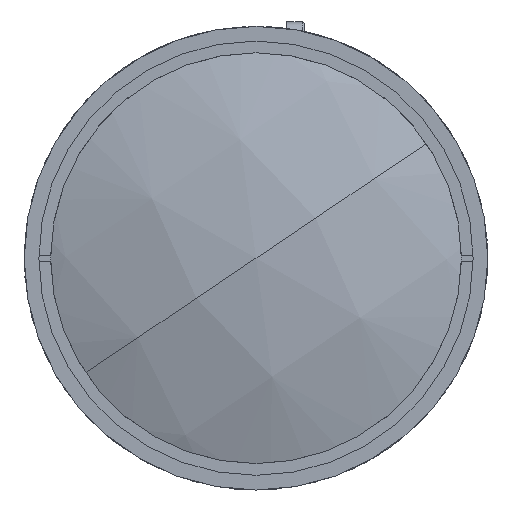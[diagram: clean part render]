
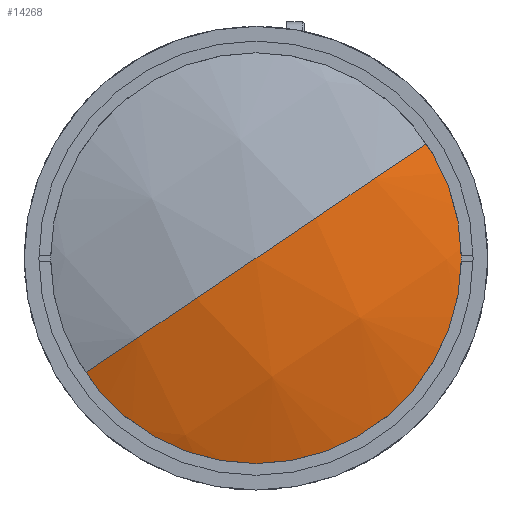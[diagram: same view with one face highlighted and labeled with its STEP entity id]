
A CAD part, left-side view. The second image highlights one B-rep face of the part: STEP entity #14268.
In plain terms, the highlighted spherical face has radius 102.234 mm.
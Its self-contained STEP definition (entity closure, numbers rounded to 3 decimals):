
#251 = EDGE_CURVE ( 'NONE', #10045, #10568, #9937, .T. ) ;
#854 = ORIENTED_EDGE ( 'NONE', *, *, #251, .T. ) ;
#1367 = DIRECTION ( 'NONE',  ( 0., -0.558, -0.83 ) ) ;
#1995 = EDGE_LOOP ( 'NONE', ( #19744, #9385, #854 ) ) ;
#3044 = CARTESIAN_POINT ( 'NONE',  ( 103.234, 0., 0. ) ) ;
#3607 = DIRECTION ( 'NONE',  ( 0., -0.83, 0.558 ) ) ;
#4278 = EDGE_CURVE ( 'NONE', #10585, #10045, #19902, .T. ) ;
#4783 = DIRECTION ( 'NONE',  ( 0., -0.83, 0.558 ) ) ;
#5620 = CARTESIAN_POINT ( 'NONE',  ( 7.548, -29.871, 20.093 ) ) ;
#6089 = EDGE_CURVE ( 'NONE', #10585, #10568, #10504, .T. ) ;
#8197 = AXIS2_PLACEMENT_3D ( 'NONE', #3044, #15093, #4783 ) ;
#9385 = ORIENTED_EDGE ( 'NONE', *, *, #4278, .T. ) ;
#9607 = DIRECTION ( 'NONE',  ( -1., 0., 0. ) ) ;
#9937 = CIRCLE ( 'NONE', #15248, 102.234 ) ;
#10045 = VERTEX_POINT ( 'NONE', #5620 ) ;
#10476 = CARTESIAN_POINT ( 'NONE',  ( 103.234, 0., 0. ) ) ;
#10504 = CIRCLE ( 'NONE', #8197, 102.234 ) ;
#10568 = VERTEX_POINT ( 'NONE', #11144 ) ;
#10585 = VERTEX_POINT ( 'NONE', #16471 ) ;
#11144 = CARTESIAN_POINT ( 'NONE',  ( 1., 0., 0. ) ) ;
#11671 = CARTESIAN_POINT ( 'NONE',  ( 103.234, 0., 0. ) ) ;
#13413 = DIRECTION ( 'NONE',  ( 0., 0.83, -0.558 ) ) ;
#14268 = ADVANCED_FACE ( 'NONE', ( #16375 ), #21485, .T. ) ;
#15093 = DIRECTION ( 'NONE',  ( 0., 0.558, 0.83 ) ) ;
#15248 = AXIS2_PLACEMENT_3D ( 'NONE', #11671, #1367, #13413 ) ;
#16375 = FACE_OUTER_BOUND ( 'NONE', #1995, .T. ) ;
#16471 = CARTESIAN_POINT ( 'NONE',  ( 7.548, 29.871, -20.093 ) ) ;
#17318 = DIRECTION ( 'NONE',  ( 0., 0.558, 0.83 ) ) ;
#19139 = AXIS2_PLACEMENT_3D ( 'NONE', #19897, #9607, #21641 ) ;
#19744 = ORIENTED_EDGE ( 'NONE', *, *, #6089, .F. ) ;
#19897 = CARTESIAN_POINT ( 'NONE',  ( 7.548, 0., 0. ) ) ;
#19902 = CIRCLE ( 'NONE', #19139, 36. ) ;
#20361 = AXIS2_PLACEMENT_3D ( 'NONE', #10476, #17318, #3607 ) ;
#21485 = SPHERICAL_SURFACE ( 'NONE', #20361, 102.234 ) ;
#21641 = DIRECTION ( 'NONE',  ( 0., 0.558, 0.83 ) ) ;
